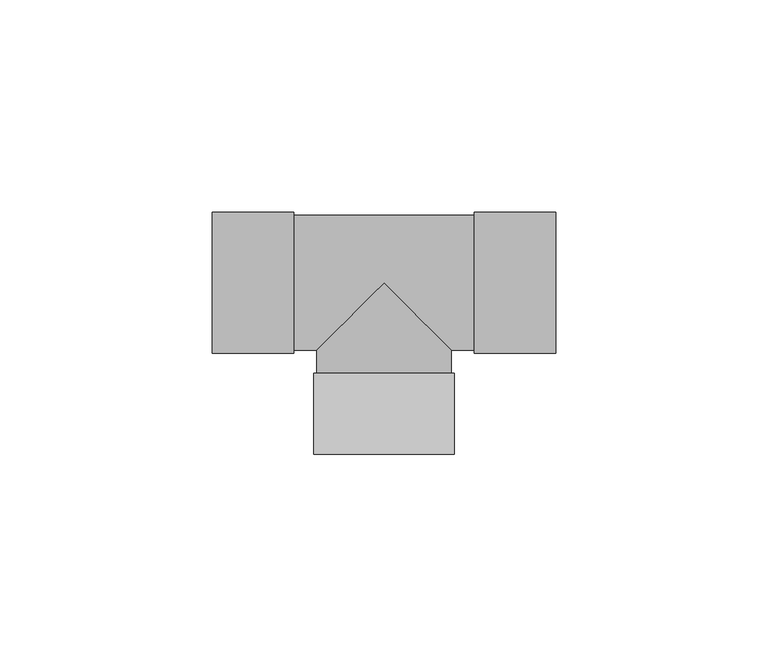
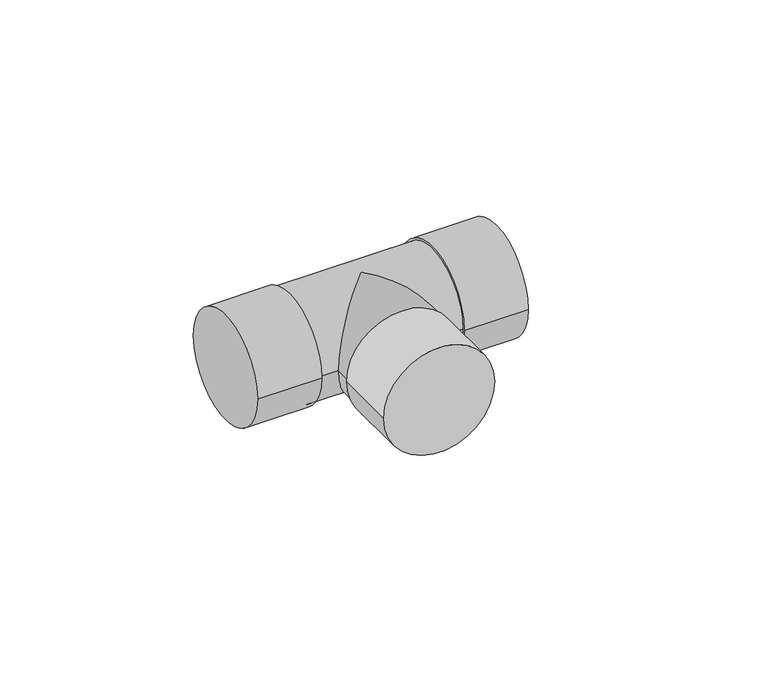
"""IFC4 building model written with IfcOpenShell, lengths in millimetres: pipe fitting geometry, Tê - Soldado - CU : Padrão."""

from ifc_helpers import new_model, si_unit, frame, origin, place, context, project, spatial, circle_curve, ellipse_curve, source, transform, mapped, element, save
from ifc_brep_helpers import plane_surface, cylinder_surface, advanced_brep


def pipe_fitting_e11027af(model_context):
    return source(origin(), model_context, "Body", "AdvancedBrep", [
        advanced_brep(
        [(16.5625, -40.4475, 0.0), (-16.5625, -40.4475, 0.0), (16.5625, -21.315, 0.0), (-16.5625, -21.315, 0.0), (15.875, -21.315, 0.0), (-15.875, -21.315, 0.0), (-40.41875, -16.5625, 0.0), (-40.41875, 16.5625, 0.0), (-21.28625, -16.5625, 0.0), (-21.28625, 16.5625, 0.0), (-21.28625, -15.875, 0.0), (-21.28625, 15.875, 0.0), (21.28625, 15.875, 0.0), (-15.875, -15.875, 0.0), (0.0, 0.0, 15.875), (15.875, -15.875, 0.0), (21.28625, -15.875, 0.0), (0.0, 0.0, -15.875), (21.28625, -16.5625, 0.0), (21.28625, 16.5625, 0.0), (40.41875, -16.5625, 0.0), (40.41875, 16.5625, 0.0)],
        [
            (0, 1, circle_curve(frame((0.0, -40.4475, 0.0), z_axis=(0.0, -1.0, 0.0), x_axis=(-1.0, 0.0, 0.0)), 16.5625)),
            (1, 0, circle_curve(frame((0.0, -40.4475, 0.0), z_axis=(0.0, -1.0, 0.0), x_axis=(-1.0, 0.0, 0.0)), 16.5625)),
            (2, 3, circle_curve(frame((0.0, -21.315, 0.0), z_axis=(0.0, 1.0, 0.0), x_axis=(-1.0, 0.0, 0.0)), 16.5625)),
            (3, 2, circle_curve(frame((0.0, -21.315, 0.0), z_axis=(0.0, 1.0, 0.0), x_axis=(-1.0, 0.0, 0.0)), 16.5625)),
            (4, 5, circle_curve(frame((0.0, -21.315, 0.0), z_axis=(0.0, -1.0, 0.0), x_axis=(1.0, 0.0, 0.0)), 15.875)),
            (5, 4, circle_curve(frame((0.0, -21.315, 0.0), z_axis=(0.0, -1.0, 0.0), x_axis=(1.0, 0.0, 0.0)), 15.875)),
            (0, 2),
            (3, 1),
            (6, 7, circle_curve(frame((-40.41875, 0.0, 0.0), z_axis=(-1.0, 0.0, 0.0), x_axis=(0.0, 1.0, 0.0)), 16.5625)),
            (7, 6, circle_curve(frame((-40.41875, 0.0, 0.0), z_axis=(-1.0, 0.0, 0.0), x_axis=(0.0, 1.0, 0.0)), 16.5625)),
            (8, 9, circle_curve(frame((-21.28625, 0.0, 0.0), z_axis=(1.0, 0.0, 0.0), x_axis=(0.0, 1.0, 0.0)), 16.5625)),
            (9, 8, circle_curve(frame((-21.28625, 0.0, 0.0), z_axis=(1.0, 0.0, 0.0), x_axis=(0.0, 1.0, 0.0)), 16.5625)),
            (10, 11, circle_curve(frame((-21.28625, 0.0, 0.0), z_axis=(-1.0, 0.0, 0.0), x_axis=(0.0, 1.0, 0.0)), 15.875)),
            (11, 10, circle_curve(frame((-21.28625, 0.0, 0.0), z_axis=(-1.0, 0.0, 0.0), x_axis=(0.0, 1.0, 0.0)), 15.875)),
            (6, 8),
            (9, 7),
            (12, 11),
            (10, 13),
            (13, 14, ellipse_curve(frame((0.0, 0.0, 0.0), z_axis=(-0.7071067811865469, 0.7071067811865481, 0.0), x_axis=(-0.707106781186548, -0.7071067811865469, 0.0)), 22.4506403, 15.875)),
            (14, 15, ellipse_curve(frame((0.0, 0.0, 0.0), z_axis=(0.7071067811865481, 0.7071067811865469, 0.0), x_axis=(-0.707106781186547, 0.7071067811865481, 0.0)), 22.4506403, 15.875)),
            (15, 16),
            (16, 12, circle_curve(frame((21.28625, 0.0, 0.0), z_axis=(-1.0, 0.0, 0.0), x_axis=(0.0, 1.0, 0.0)), 15.875)),
            (12, 16, circle_curve(frame((21.28625, 0.0, 0.0), z_axis=(-1.0, 0.0, 0.0), x_axis=(0.0, 1.0, 0.0)), 15.875)),
            (15, 17, ellipse_curve(frame((0.0, 0.0, 0.0), z_axis=(0.7071067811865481, 0.7071067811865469, 0.0), x_axis=(-0.707106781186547, 0.7071067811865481, 0.0)), 22.4506403, 15.875)),
            (17, 13, ellipse_curve(frame((0.0, 0.0, 0.0), z_axis=(-0.7071067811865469, 0.7071067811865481, 0.0), x_axis=(-0.707106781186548, -0.7071067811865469, 0.0)), 22.4506403, 15.875)),
            (18, 19, circle_curve(frame((21.28625, 0.0, 0.0), z_axis=(-1.0, 0.0, 0.0), x_axis=(0.0, 1.0, 0.0)), 16.5625)),
            (19, 18, circle_curve(frame((21.28625, 0.0, 0.0), z_axis=(-1.0, 0.0, 0.0), x_axis=(0.0, 1.0, 0.0)), 16.5625)),
            (20, 21, circle_curve(frame((40.41875, 0.0, 0.0), z_axis=(1.0, 0.0, 0.0), x_axis=(0.0, 1.0, 0.0)), 16.5625)),
            (21, 20, circle_curve(frame((40.41875, 0.0, 0.0), z_axis=(1.0, 0.0, 0.0), x_axis=(0.0, 1.0, 0.0)), 16.5625)),
            (18, 20),
            (21, 19),
            (4, 15),
            (13, 5),
        ],
        [
            plane_surface(frame((0.0, -40.4475, 0.0), z_axis=(0.0, -1.0, 0.0), x_axis=(0.0, 0.0, 1.0))),
            plane_surface(frame((0.0, -21.315, 0.0), z_axis=(0.0, 1.0, 0.0), x_axis=(0.0, 0.0, 1.0))),
            cylinder_surface(frame((0.0, -40.4475, 0.0), z_axis=(0.0, -1.0, 0.0), x_axis=(-1.0, 0.0, 0.0)), 16.5625),
            plane_surface(frame((-40.41875, 0.0, 0.0), z_axis=(-1.0, 0.0, 0.0), x_axis=(0.0, 0.0, 1.0))),
            plane_surface(frame((-21.28625, 0.0, 0.0), z_axis=(1.0, 0.0, 0.0), x_axis=(0.0, 0.0, 1.0))),
            cylinder_surface(frame((-40.41875, 0.0, 0.0), z_axis=(-1.0, 0.0, 0.0), x_axis=(0.0, 1.0, 0.0)), 16.5625),
            cylinder_surface(frame((-21.28625, 0.0, 0.0), z_axis=(-1.0, 0.0, 0.0), x_axis=(0.0, 1.0, 0.0)), 15.875),
            plane_surface(frame((21.28625, 0.0, 0.0), z_axis=(-1.0, 0.0, 0.0), x_axis=(0.0, 0.0, 1.0))),
            plane_surface(frame((40.41875, 0.0, 0.0), z_axis=(1.0, 0.0, 0.0), x_axis=(0.0, 0.0, 1.0))),
            cylinder_surface(frame((21.28625, 0.0, 0.0), z_axis=(-1.0, 0.0, 0.0), x_axis=(0.0, 1.0, 0.0)), 16.5625),
            cylinder_surface(frame((0.0, 0.0, 0.0), z_axis=(0.0, 1.0, 0.0), x_axis=(1.0, 0.0, 0.0)), 15.875),
        ],
        [
            (0, [[1, 2]]),
            (1, [[3, 4], [5, 6]]),
            (2, [[-1, 7, -4, 8]]),
            (2, [[-2, -8, -3, -7]]),
            (3, [[9, 10]]),
            (4, [[11, 12], [13, 14]]),
            (5, [[-9, 15, -12, 16]]),
            (5, [[-10, -16, -11, -15]]),
            (6, [[17, -13, 18, 19, 20, 21, 22]]),
            (6, [[-17, 23, -21, 24, 25, -18, -14]]),
            (7, [[26, 27], [-22, -23]]),
            (8, [[28, 29]]),
            (9, [[-26, 30, -29, 31]]),
            (9, [[-27, -31, -28, -30]]),
            (10, [[32, -20, -19, 33, -5]]),
            (10, [[-32, -6, -33, -25, -24]]),
        ],
    ),
    ])


if __name__ == "__main__":
    model = new_model("IFC4")
    model_context = context("Model", 3, world=origin())
    ifc_project = project(units=[si_unit("LENGTHUNIT", "METRE", prefix="MILLI")], contexts=[model_context])
    site = spatial("IfcSite", under=ifc_project)
    building = spatial("IfcBuilding", under=site)
    placement = place(None, origin())
    pipe_fitting_shape = pipe_fitting_e11027af(model_context)
    element("IfcPipeFitting", 1, ObjectType="Tê - Soldado - CU : Padrão", at=placement, inside=building, context=model_context, shape_type="MappedRepresentation", body=[
        mapped(pipe_fitting_shape, transform((0.0, 0.0, 0.0), x_axis=(1.0, 0.0, 0.0), y_axis=(0.0, 1.0, 0.0), z_axis=(0.0, 0.0, 1.0))),
    ])
    save(model, "model.ifc")
